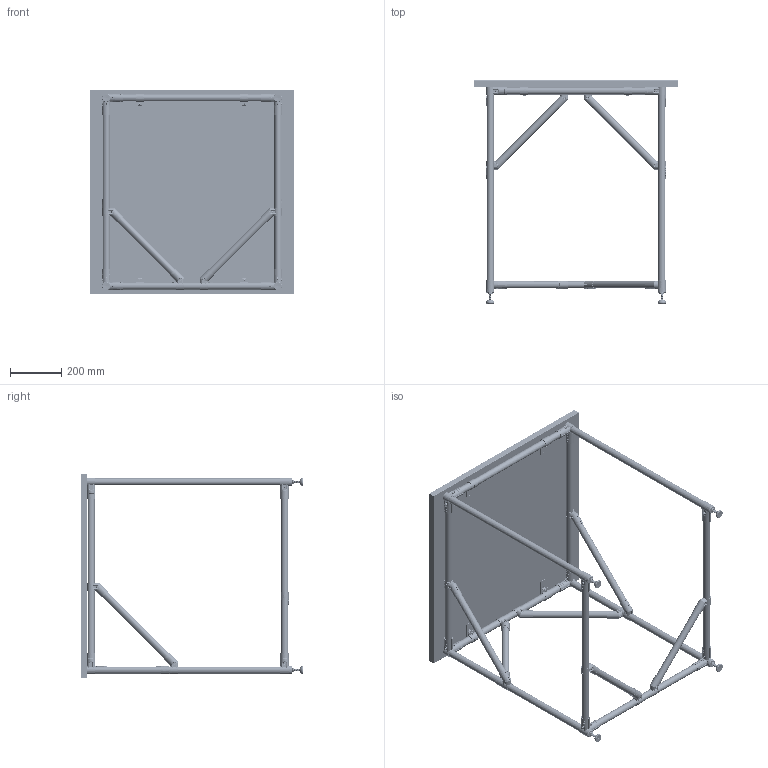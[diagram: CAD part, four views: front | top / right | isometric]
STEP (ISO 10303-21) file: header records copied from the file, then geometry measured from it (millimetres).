
FILE_DESCRIPTION (( 'STEP AP214' ), '1' );
FILE_NAME ('RSI-WSF-800x800.STEP', '2026-08-31T13:06:25', ( 'Àëåêñåé' ), ( '' ), 'SwSTEP 2.0', 'SolidWorks 2022', '' );
FILE_SCHEMA (( 'AUTOMOTIVE_DESIGN' ));
Length unit declared in the file: millimetre
Products named in the file (12): RSI-DF15B; Столешница 800х800; PR-28X2-A_L=800 мм; PR-28X2-A_L=665 мм; RSI-DF1B; RSI-DF14B; PR-28X2-A_L=600 мм; PR-28X2-A_L=400 мм; RSI-FH1200LV2; RSI-DF2B; RSI-WSF-800x800; PR-28X2-A_L=350 мм
Assembly tree (46 placements, depth 2):
  RSI-WSF-800x800
    PR-28X2-A_L=600 мм  x3
    PR-28X2-A_L=800 мм  x4
    PR-28X2-A_L=665 мм  x4
    PR-28X2-A_L=400 мм  x2
    RSI-DF14B  x12
    RSI-DF15B  x4
    RSI-DF2B  x6
    Столешница 800х800
    RSI-DF1B  x2
    PR-28X2-A_L=350 мм  x4
    RSI-FH1200LV2  x4
Bounding box: 800 x 870.2 x 800 mm (x, y, z)
Volume: 18161477.2 mm3; surface area: 3528451.4 mm2
Topology: 130 solids, 146 shells, 8578 faces, 22166 edges, 14346 vertices
Faces by surface type: cylinder 3406, plane 3076, bspline 1288, cone 476, torus 292, sphere 40
Full cylindrical faces by diameter (mm): 10 x4, 24 x17, 28 x17
Entity records: 102487 total; most frequent: CARTESIAN_POINT 62523, ORIENTED_EDGE 7672, DIRECTION 5475, EDGE_CURVE 3836, VERTEX_POINT 2492, AXIS2_PLACEMENT_3D 2019, B_SPLINE_CURVE_WITH_KNOTS 1629, EDGE_LOOP 1628
